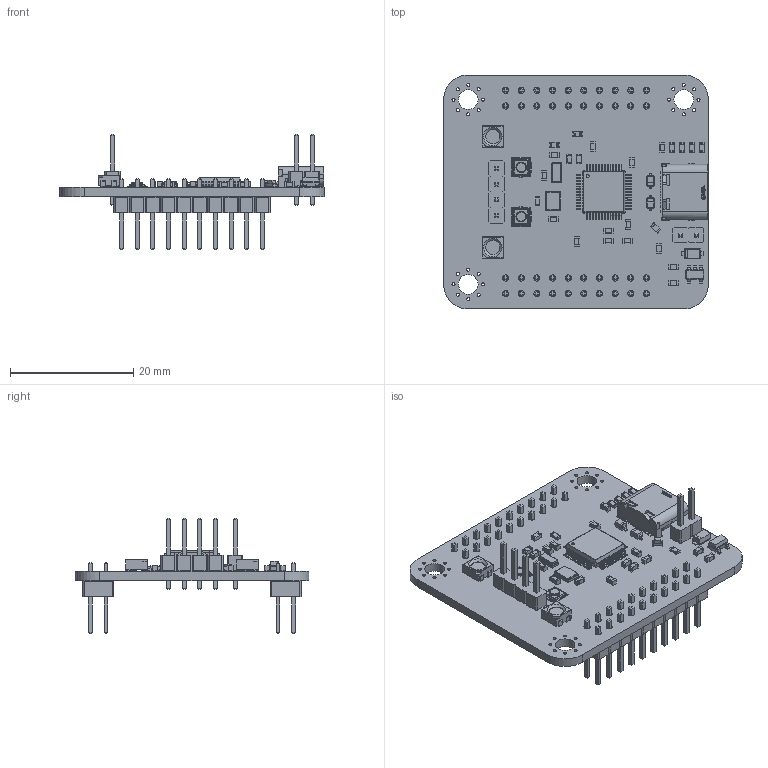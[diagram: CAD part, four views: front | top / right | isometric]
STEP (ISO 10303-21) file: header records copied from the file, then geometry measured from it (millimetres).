
FILE_DESCRIPTION(('KiCad electronic assembly'),'2;1');
FILE_NAME('STM32G491CET6.step','2025-04-25T09:47:41',('Pcbnew'),('Kicad' ),'Open CASCADE STEP processor 7.8','KiCad to STEP converter', 'Unknown');
FILE_SCHEMA(('AUTOMOTIVE_DESIGN { 1 0 10303 214 1 1 1 1 }'));
Length unit declared in the file: millimetre
Products named in the file (19): STM32G491CET6 1; C_0603_1608Metric; L_0603_1608Metric; Crystal_SMD_3225-4Pin_3.2x2.5mm; LED_WS2812B-Mini_PLCC4_3.5x3.5mm; LQFP-48_7x7mm_P0.5mm; PinHeader_1x02_P2.54mm_Vertical; R_0603_1608Metric; Crystal_SMD_3215-2Pin_3.2x1.5mm; USB-C-SMD_TYPE-C-6PIN-2MD-073; D_0603_1608Metric; SW-SMD_L3.1-W3.1-P2.20-LS4.0; D_SOD-323; SOT-23-5; LED_0603_1608Metric; D_SOD-123F; PinHeader_1x04_P2.54mm_Vertical; PinHeader_2x10_P2.54mm_Vertical; STM32G491CET6_PCB
Assembly tree (41 placements, depth 2):
  STM32G491CET6 1
    C_0603_1608Metric  x14
    L_0603_1608Metric
    Crystal_SMD_3225-4Pin_3.2x2.5mm
    LED_WS2812B-Mini_PLCC4_3.5x3.5mm  x2
    LQFP-48_7x7mm_P0.5mm
    PinHeader_1x02_P2.54mm_Vertical
    R_0603_1608Metric  x6
    Crystal_SMD_3215-2Pin_3.2x1.5mm
    USB-C-SMD_TYPE-C-6PIN-2MD-073
    D_0603_1608Metric  x2
    SW-SMD_L3.1-W3.1-P2.20-LS4.0  x2
    D_SOD-323  x2
    SOT-23-5
    LED_0603_1608Metric
    D_SOD-123F
    PinHeader_1x04_P2.54mm_Vertical
    PinHeader_2x10_P2.54mm_Vertical  x2
    STM32G491CET6_PCB
Bounding box: 43 x 38 x 18.76 mm (x, y, z)
Volume: 3540.7 mm3; surface area: 6874.4 mm2
Topology: 93 solids, 93 shells, 4555 faces, 11791 edges, 7568 vertices
Faces by surface type: plane 3148, cylinder 850, bspline 507, torus 40, cone 10
Full cylindrical faces by diameter (mm): 0.5 x25, 0.7 x2, 1 x46, 2.307 x2, 3.2 x3
Entity records: 119138 total; most frequent: CARTESIAN_POINT 24139, ORIENTED_EDGE 15854, DIRECTION 13866, EDGE_CURVE 7927, LINE 6138, VECTOR 6138, VERTEX_POINT 5067, AXIS2_PLACEMENT_3D 3864
